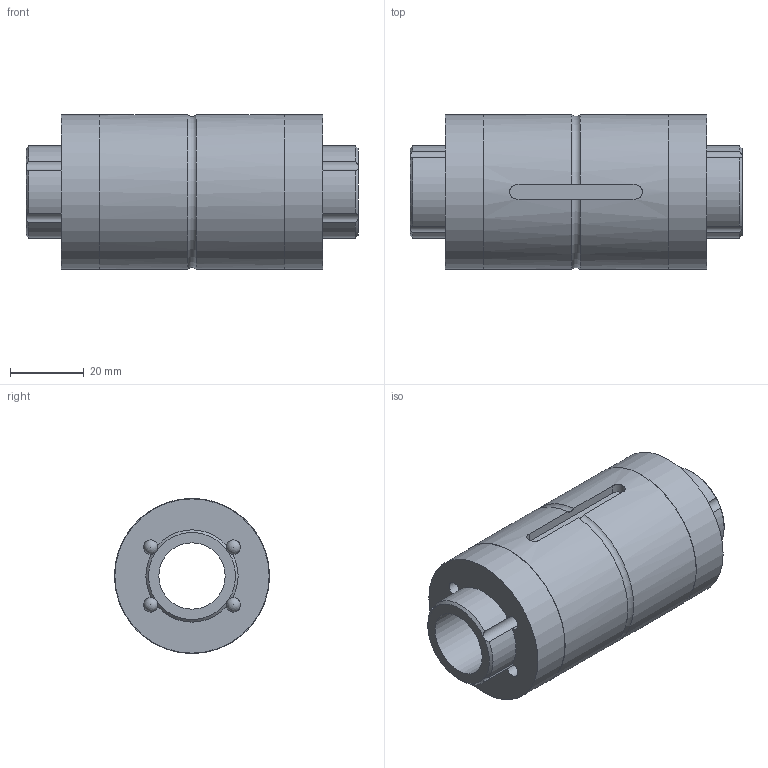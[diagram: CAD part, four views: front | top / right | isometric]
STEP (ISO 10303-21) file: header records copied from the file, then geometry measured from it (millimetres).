
FILE_DESCRIPTION(/* description */ ('Unknown'),/* implementation_level */ '2;1');
FILE_NAME(/* name */ 'TLT025-D1-L90',/* time_stamp */ '2024-12-23T10:15:07+08:00',/* author */ ('Unknown'),/* organization */ ('Unknown'),/* preprocessor_version */ 'ST-DEVELOPER v18.102',/* originating_system */ 'Solid Edge',/* authorisation */ 'Unknown');
FILE_SCHEMA (('AUTOMOTIVE_DESIGN {1 0 10303 214 3 1 1}'));
Length unit declared in the file: millimetre
Products named in the file (3): TLT025-D1-L90; TLT025-D1-xxxx; TLT025
Assembly tree (2 placements, depth 2):
  TLT025-D1-L90
    TLT025-D1-xxxx
    TLT025
Bounding box: 90 x 42 x 42 mm (x, y, z)
Volume: 81058.1 mm3; surface area: 32242.1 mm2
Topology: 2 solids, 2 shells, 63 faces, 304 edges, 200 vertices
Faces by surface type: cylinder 24, sphere 20, plane 9, cone 8, torus 2
Full cylindrical faces by diameter (mm): 3 x1, 18 x1, 41.8 x2, 42 x2
Entity records: 3544 total; most frequent: CARTESIAN_POINT 1414, ORIENTED_EDGE 482, DIRECTION 338, EDGE_CURVE 241, VERTEX_POINT 169, AXIS2_PLACEMENT_3D 136, EDGE_LOOP 128, FACE_BOUND 128
